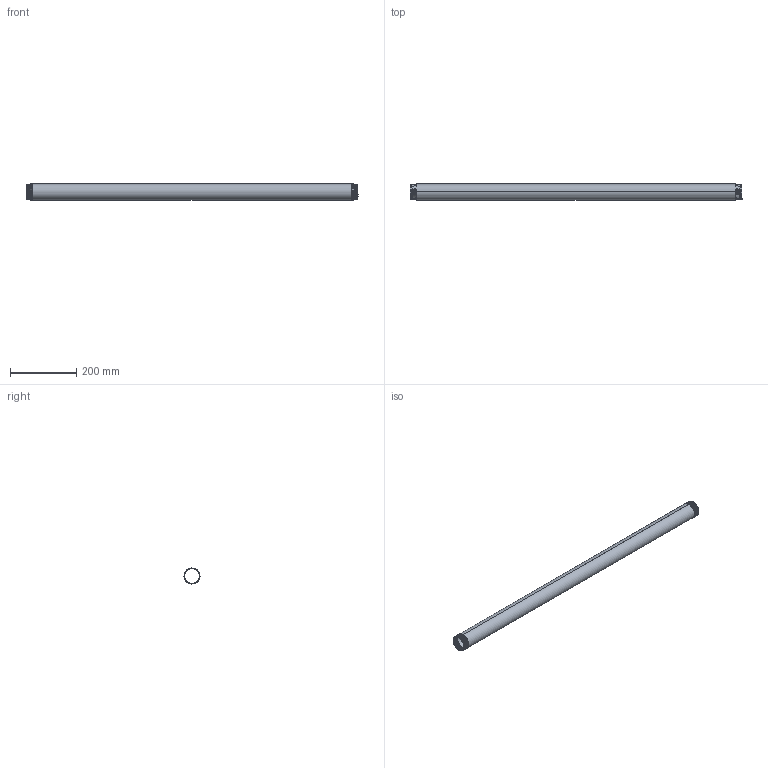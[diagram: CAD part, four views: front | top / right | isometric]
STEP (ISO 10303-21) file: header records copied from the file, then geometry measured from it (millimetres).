
FILE_DESCRIPTION (( 'STEP AP203' ), '1' );
FILE_NAME ('3D_R210_1 1-2x1000_17191635.STEP', '2024-08-16T14:54:50', ( '' ), ( '' ), 'SwSTEP 2.0', 'SolidWorks 2024', '' );
FILE_SCHEMA (( 'CONFIG_CONTROL_DESIGN' ));
Length unit declared in the file: millimetre
Products named in the file (1): 3D_R210_1 1-2x1000_17191635
Bounding box: 1000 x 48.24 x 48.3 mm (x, y, z)
Volume: 288927.4 mm3; surface area: 294440.1 mm2
Topology: 1 solids, 1 shells, 70 faces, 198 edges, 130 vertices
Faces by surface type: cone 56, bspline 6, cylinder 4, plane 4
Entity records: 12165 total; most frequent: CARTESIAN_POINT 10533, ORIENTED_EDGE 396, DIRECTION 218, EDGE_CURVE 198, VERTEX_POINT 130, B_SPLINE_CURVE_WITH_KNOTS 114, AXIS2_PLACEMENT_3D 77, EDGE_LOOP 72
